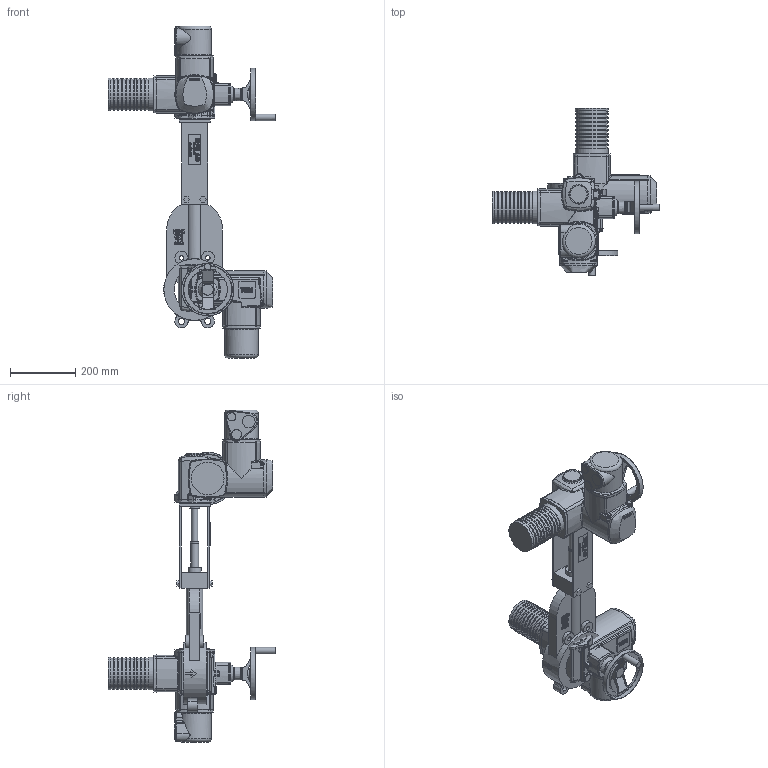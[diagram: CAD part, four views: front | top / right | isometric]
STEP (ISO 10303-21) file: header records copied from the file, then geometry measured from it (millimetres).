
FILE_DESCRIPTION( ( 'Unknown' ), '1' );
FILE_NAME( 'J:/Muud/ROOTSI BPS 3D vidinad/Nugasiibrid/Knife gate valve with electric actuator BPS/STEP formaat/BPS 2010125E knife gate valve DN125.stp', 'Unknown', ( 'Unknown' ), ( 'Unknown' ), 'PSStep 10.1', 'Unknown', ' ' );
FILE_SCHEMA( ( 'AUTOMOTIVE_DESIGN { 1 0 10303 214 1 1 1 1 }' ) );
Length unit declared in the file: millimetre
Products named in the file (3): Assem1; Knife gate valve for electric drive DN125 BPS; AUMA electric actuator sa07.1(sa07.5)-oa0
Bounding box: 511.9 x 511.9 x 1014 mm (x, y, z)
Volume: 20880401.8 mm3; surface area: 1445706.4 mm2
Topology: 4 solids, 4 shells, 2818 faces, 6778 edges, 4240 vertices
Faces by surface type: extrusion 1074, plane 586, cylinder 536, bspline 330, cone 154, torus 92, sphere 46
Full cylindrical faces by diameter (mm): 4.917 x8, 6.647 x8, 13.835 x4, 19 x4, 20 x6, 24 x4, 25 x4, 25.5 x2, 30 x8, 34 x2, 38.3 x2, 40 x2, 51.5 x2, 55 x2, 90 x2, 95 x20, 100 x22, 120 x2, 125 x4, 160 x2, 188 x2
Entity records: 72360 total; most frequent: CARTESIAN_POINT 31302, ORIENTED_EDGE 6456, DIRECTION 4772, EDGE_CURVE 3228, VERTEX_POINT 2093, VECTOR 1950, EDGE_LOOP 1685, B_SPLINE_CURVE_WITH_KNOTS 1651
